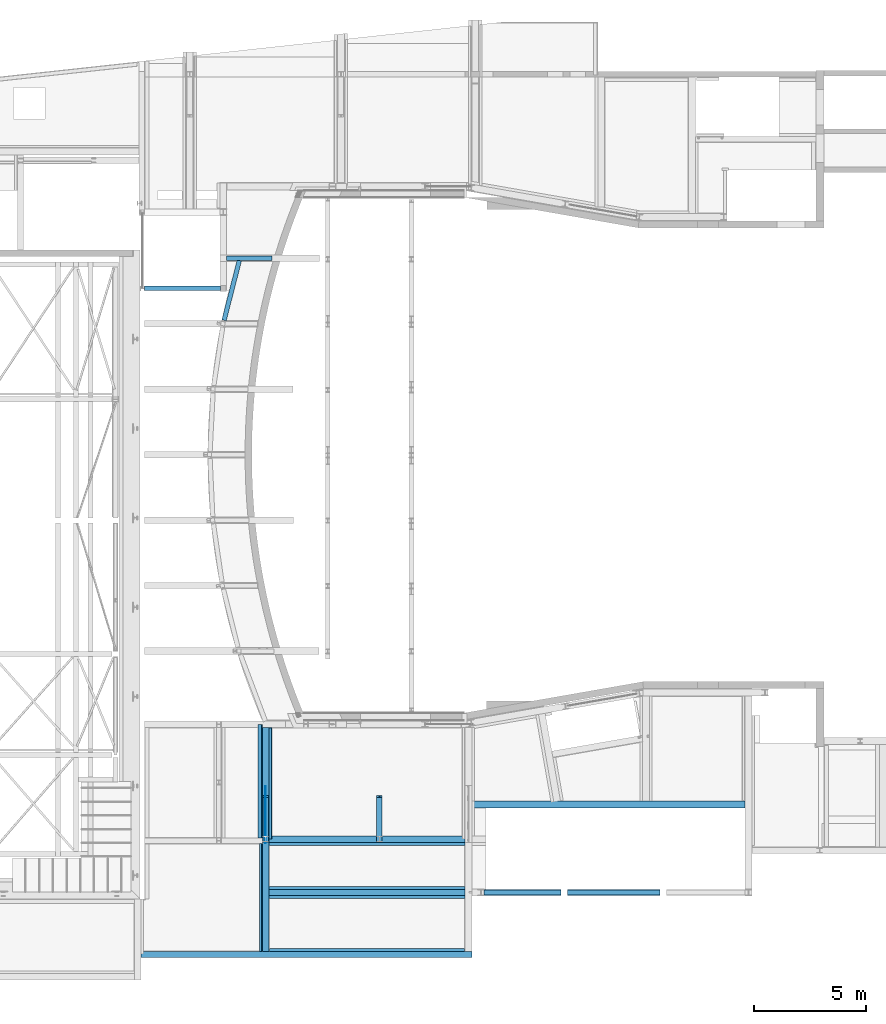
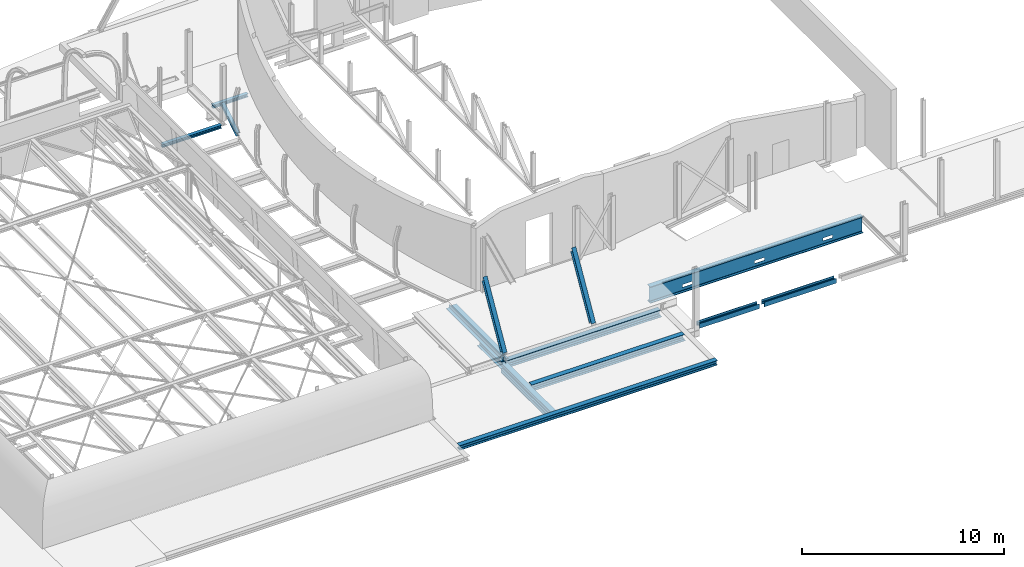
# One storey, part 18 of 38: 17 beams.
"""IFC2X3 building model written with IfcOpenShell, lengths in millimetres."""

from ifc_helpers import new_model, entity, si_unit, converted_unit, derived_unit, direction, frame, frame_2d, origin, origin_2d_with_axis, place, context, subcontext, project, spatial, polyline, circle_curve, parameter, trimmed, segment, composite_curve, rectangle, i_section, outline, extrude, boolean, clip, halfspace, source, transform, mapped, material, material_list, type_object, type_shapes, element, save


model = new_model("IFC2X3")

# Units and contexts
model_context = context("Model", 3, precision=0.01, world=origin(), true_north=direction((6.12303176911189e-17, 1.0)))
body_context = subcontext(model_context, "Body", "Model", "MODEL_VIEW")
ifc_project = project(units=[si_unit("LENGTHUNIT", "METRE", prefix="MILLI"), si_unit("AREAUNIT", "SQUARE_METRE", prefix="MILLI"), si_unit("VOLUMEUNIT", "CUBIC_METRE"), converted_unit("PLANEANGLEUNIT", "DEGREE", entity("IfcRatioMeasure", 0.0174532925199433), si_unit("PLANEANGLEUNIT", "RADIAN"), dimensions=[0, 0, 0, 0, 0, 0, 0]), si_unit("MASSUNIT", "GRAM", prefix="KILO"), derived_unit("MASSDENSITYUNIT", [(si_unit("MASSUNIT", "GRAM", prefix="KILO"), 1), (si_unit("LENGTHUNIT", "METRE"), -3)]), derived_unit("MOMENTOFINERTIAUNIT", [(si_unit("LENGTHUNIT", "METRE"), 4)]), si_unit("TIMEUNIT", "SECOND"), si_unit("FREQUENCYUNIT", "HERTZ"), si_unit("THERMODYNAMICTEMPERATUREUNIT", "DEGREE_CELSIUS"), derived_unit("THERMALTRANSMITTANCEUNIT", [(si_unit("MASSUNIT", "GRAM", prefix="KILO"), 1), (si_unit("THERMODYNAMICTEMPERATUREUNIT", "KELVIN"), -1), (si_unit("TIMEUNIT", "SECOND"), -3)]), derived_unit("VOLUMETRICFLOWRATEUNIT", [(si_unit("LENGTHUNIT", "METRE"), 3), (si_unit("TIMEUNIT", "SECOND"), -1)]), si_unit("ELECTRICCURRENTUNIT", "AMPERE"), si_unit("ELECTRICVOLTAGEUNIT", "VOLT"), si_unit("POWERUNIT", "WATT"), si_unit("FORCEUNIT", "NEWTON", prefix="KILO"), si_unit("ILLUMINANCEUNIT", "LUX"), si_unit("LUMINOUSFLUXUNIT", "LUMEN"), si_unit("LUMINOUSINTENSITYUNIT", "CANDELA"), derived_unit("USERDEFINED", [(si_unit("MASSUNIT", "GRAM", prefix="KILO"), -1), (si_unit("LENGTHUNIT", "METRE"), -2), (si_unit("TIMEUNIT", "SECOND"), 3), (si_unit("LUMINOUSFLUXUNIT", "LUMEN"), 1)]), derived_unit("LINEARVELOCITYUNIT", [(si_unit("LENGTHUNIT", "METRE"), 1), (si_unit("TIMEUNIT", "SECOND"), -1)]), si_unit("PRESSUREUNIT", "PASCAL"), derived_unit("USERDEFINED", [(si_unit("LENGTHUNIT", "METRE"), -2), (si_unit("MASSUNIT", "GRAM", prefix="KILO"), 1), (si_unit("TIMEUNIT", "SECOND"), -2)]), derived_unit("LINEARFORCEUNIT", [(si_unit("MASSUNIT", "GRAM", prefix="KILO"), 1), (si_unit("LENGTHUNIT", "METRE"), 1), (si_unit("TIMEUNIT", "SECOND"), -2), (si_unit("LENGTHUNIT", "METRE"), -1)]), derived_unit("PLANARFORCEUNIT", [(si_unit("MASSUNIT", "GRAM", prefix="KILO"), 1), (si_unit("LENGTHUNIT", "METRE"), 1), (si_unit("TIMEUNIT", "SECOND"), -2), (si_unit("LENGTHUNIT", "METRE"), -2)])], contexts=[model_context])

# Site, building, storey
site_placement = place(None, origin())
site = spatial("IfcSite", under=ifc_project, at=site_placement, Name="Theater aan de Parade", CompositionType="ELEMENT")
building_placement = place(site_placement, origin())
building = spatial("IfcBuilding", under=site, at=building_placement, Name="Theater aan de Parade", CompositionType="ELEMENT")
storey_placement = place(building_placement, frame((0.0, 0.0, 12480.0)))
storey = spatial("IfcBuildingStorey", under=building, at=storey_placement, Name="03 derde verdieping", CompositionType="ELEMENT", Elevation=12480.0)

# Beams
ifc_material_1 = material(Name="00_PBT_MAT_staal_S355")
beam_type_1 = type_object("IfcBeamType", Name="28_PBT_SF_staal_L-profiel:S355_L200x200x20", PredefinedType="NOTDEFINED")
beam_1_placement = place(storey_placement, frame((42638.1091634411, 15379.4841107, 0.0), z_axis=(0.0, 0.0, 1.0), x_axis=(0.0, 1.0, 0.0)))
element("IfcBeam", 1, at=beam_1_placement, inside=storey, type_object=beam_type_1, material=ifc_material_1, Name="28_PBT_SF_staal_L-profiel:S355_L200x200x20", ObjectType="28_PBT_SF_staal_L-profiel:S355_L200x200x20", context=body_context, shape_type="SweptSolid", body=[
    extrude(outline(composite_curve([segment(polyline([(-124.444444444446, -75.5555555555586), (75.5555555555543, -75.5555555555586)]), True, "CONTINUOUS"), segment(polyline([(75.5555555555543, -75.5555555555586), (75.5555555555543, 124.444444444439)]), True, "CONTINUOUS"), segment(polyline([(75.5555555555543, 124.444444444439), (64.5555555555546, 124.444444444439)]), True, "CONTINUOUS"), segment(trimmed(circle_curve(frame_2d((64.5555555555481, 115.444444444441), x_axis=(0.0, 1.0)), 8.99999999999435), [parameter(0.0)], [parameter(90.0000000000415)], True, "PARAMETER"), True, "CONTINUOUS"), segment(polyline([(55.5555555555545, 115.444444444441), (55.5555555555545, -37.5555555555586)]), True, "CONTINUOUS"), segment(trimmed(circle_curve(frame_2d((37.5555555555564, -37.5555555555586), x_axis=(1.0, 0.0)), 17.9999999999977), [parameter(269.999999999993)], [parameter(0.0)], True, "PARAMETER"), False, "CONTINUOUS"), segment(polyline([(37.5555555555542, -55.5555555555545), (-115.444444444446, -55.5555555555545)]), True, "CONTINUOUS"), segment(trimmed(circle_curve(frame_2d((-115.444444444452, -64.5555555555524), x_axis=(0.0, 1.0)), 8.99999999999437), [parameter(0.0)], [parameter(90.0000000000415)], True, "PARAMETER"), True, "CONTINUOUS"), segment(polyline([(-124.444444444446, -64.5555555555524), (-124.444444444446, -75.5555555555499)]), True, "CONTINUOUS")], self_intersect=False)), frame((0.0, 18.7555555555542, -89.4444444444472), z_axis=(1.0, 0.0, 0.0), x_axis=(0.0, 0.0, -1.0)), (0.0, 0.0, 1.0), 5065.51588929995),
])
beam_type_2 = type_object("IfcBeamType", Name="28_PBT_SF_staal_H-profiel (void):S355_HE200A", PredefinedType="NOTDEFINED")
beam_2_placement = place(storey_placement, frame((40838.8581275, 39850.0, 0.0), z_axis=(0.0, 0.0, 1.0), x_axis=(-1.0, 0.0, 0.0)))
element("IfcBeam", 2, at=beam_2_placement, inside=storey, type_object=beam_type_2, material=ifc_material_1, Name="28_PBT_SF_staal_H-profiel (void):S355_HE200A", ObjectType="28_PBT_SF_staal_H-profiel (void):S355_HE200A", context=body_context, shape_type="SweptSolid", body=[
    extrude(outline(composite_curve([segment(polyline([(85.0, -100.0), (95.0, -100.0)]), True, "CONTINUOUS"), segment(polyline([(95.0, -100.0), (95.0, 100.0)]), True, "CONTINUOUS"), segment(polyline([(95.0, 100.0), (85.0, 100.0)]), True, "CONTINUOUS"), segment(polyline([(85.0, 100.0), (85.0, 21.2500000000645)]), True, "CONTINUOUS"), segment(trimmed(circle_curve(frame_2d((67.0, 21.2500000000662), x_axis=(1.0, 0.0)), 17.9999999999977), [parameter(269.999999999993)], [parameter(0.0)], True, "PARAMETER"), False, "CONTINUOUS"), segment(polyline([(67.0, 3.25000000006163), (-67.0, 3.24999999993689)]), True, "CONTINUOUS"), segment(trimmed(circle_curve(frame_2d((-67.0, 21.2499999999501), x_axis=(0.0, -1.0)), 17.9999999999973), [parameter(269.999999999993)], [parameter(0.0)], True, "PARAMETER"), False, "CONTINUOUS"), segment(polyline([(-85.0, 21.2499999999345), (-85.0, 100.0)]), True, "CONTINUOUS"), segment(polyline([(-85.0, 100.0), (-95.0, 100.0)]), True, "CONTINUOUS"), segment(polyline([(-95.0, 100.0), (-95.0, -100.0)]), True, "CONTINUOUS"), segment(polyline([(-95.0, -100.0), (-85.0, -100.0)]), True, "CONTINUOUS"), segment(polyline([(-85.0, -100.0), (-85.0, -21.2500000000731)]), True, "CONTINUOUS"), segment(trimmed(circle_curve(frame_2d((-67.0, -21.2500000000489), x_axis=(-1.0, 0.0)), 17.9999999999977), [parameter(269.999999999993)], [parameter(0.0)], True, "PARAMETER"), False, "CONTINUOUS"), segment(polyline([(-67.0, -3.25000000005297), (67.0, -3.24999999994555)]), True, "CONTINUOUS"), segment(trimmed(circle_curve(frame_2d((67.0, -21.2499999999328), x_axis=(0.0, 1.0)), 17.9999999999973), [parameter(269.999999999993)], [parameter(0.0)], True, "PARAMETER"), False, "CONTINUOUS"), segment(polyline([(85.0, -21.2499999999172), (85.0, -100.0)]), True, "CONTINUOUS")], self_intersect=False)), frame((0.0, 0.0, -300.0), z_axis=(1.0, 0.0, 0.0), x_axis=(0.0, 0.0, -1.0)), (0.0, 0.0, 1.0), 3384.99999741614),
])
beam_type_3 = type_object("IfcBeamType", Name="28_PBT_SF_staal_H-profiel (void):S355_HE1000A", PredefinedType="NOTDEFINED")
beam_3_placement = place(storey_placement, frame((64194.5520755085, 16870.00257623, 0.0), z_axis=(0.0, 0.0, 1.0), x_axis=(-1.0, 0.0, 0.0)))
element("IfcBeam", 3, at=beam_3_placement, inside=storey, type_object=beam_type_3, material=ifc_material_1, Name="28_PBT_SF_staal_H-profiel (void):S355_HE1000A", ObjectType="28_PBT_SF_staal_H-profiel (void):S355_HE1000A", context=body_context, shape_type="CSG", body=[
    boolean("DIFFERENCE", boolean("DIFFERENCE", boolean("DIFFERENCE", extrude(outline(composite_curve([segment(polyline([(464.0, -150.0), (495.0, -150.0)]), True, "CONTINUOUS"), segment(polyline([(495.0, -150.0), (495.0, 150.0)]), True, "CONTINUOUS"), segment(polyline([(495.0, 150.0), (464.0, 150.0)]), True, "CONTINUOUS"), segment(polyline([(464.0, 150.0), (464.0, 38.2500000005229)]), True, "CONTINUOUS"), segment(trimmed(circle_curve(frame_2d((434.0, 38.2500000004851), x_axis=(1.0, 0.0)), 29.9999999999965), [parameter(269.999999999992)], [parameter(0.0)], True, "PARAMETER"), False, "CONTINUOUS"), segment(polyline([(434.0, 8.2500000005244), (-434.0, 8.24999999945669)]), True, "CONTINUOUS"), segment(trimmed(circle_curve(frame_2d((-434.0, 38.2499999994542), x_axis=(0.0, -1.0)), 29.9999999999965), [parameter(269.999999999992)], [parameter(0.0)], True, "PARAMETER"), False, "CONTINUOUS"), segment(polyline([(-464.0, 38.2499999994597), (-464.0, 150.0)]), True, "CONTINUOUS"), segment(polyline([(-464.0, 150.0), (-495.0, 150.0)]), True, "CONTINUOUS"), segment(polyline([(-495.0, 150.0), (-495.0, -150.0)]), True, "CONTINUOUS"), segment(polyline([(-495.0, -150.0), (-464.0, -150.0)]), True, "CONTINUOUS"), segment(polyline([(-464.0, -150.0), (-464.0, -38.2500000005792)]), True, "CONTINUOUS"), segment(trimmed(circle_curve(frame_2d((-434.0, -38.2500000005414), x_axis=(-1.0, 0.0)), 29.9999999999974), [parameter(269.999999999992)], [parameter(0.0)], True, "PARAMETER"), False, "CONTINUOUS"), segment(polyline([(-434.0, -8.25000000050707), (434.0, -8.249999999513)]), True, "CONTINUOUS"), segment(trimmed(circle_curve(frame_2d((434.0, -38.2499999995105), x_axis=(0.0, 1.0)), 29.9999999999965), [parameter(269.999999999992)], [parameter(0.0)], True, "PARAMETER"), False, "CONTINUOUS"), segment(polyline([(464.0, -38.2499999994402), (464.0, -150.0)]), True, "CONTINUOUS")], self_intersect=False)), frame((0.0, 0.0, -435.0), z_axis=(1.0, 0.0, 0.0), x_axis=(0.0, 0.0, -1.0)), (0.0, 0.0, 1.0), 12169.2469158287), extrude(rectangle(XDim=170.0, YDim=570.0, at=frame_2d((4.32009983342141e-12, 0.0), x_axis=(0.0, 1.0))), frame((9962.26768215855, 8.25000000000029, -630.0), z_axis=(0.0, -1.0, 0.0), x_axis=(-1.0, 0.0, 0.0)), (0.0, 0.0, 1.0), 16.5000000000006)), extrude(rectangle(XDim=170.0, YDim=570.0, at=frame_2d((4.32009983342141e-12, 0.0), x_axis=(0.0, 1.0))), frame((5847.85147524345, 8.25000000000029, -630.0), z_axis=(0.0, -1.0, 0.0), x_axis=(-1.0, 0.0, 0.0)), (0.0, 0.0, 1.0), 16.5000000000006)), extrude(rectangle(XDim=170.0, YDim=570.0, at=frame_2d((4.32009983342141e-12, 0.0), x_axis=(0.0, 1.0))), frame((1955.78862889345, 8.25000000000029, -630.0), z_axis=(0.0, -1.0, 0.0), x_axis=(-1.0, 0.0, 0.0)), (0.0, 0.0, 1.0), 16.4999999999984)),
])
ifc_material_2 = material(Name="00_PBT_MAT_Lucht")
ifc_material_list_1 = material_list([ifc_material_2, ifc_material_1])
beam_type_4 = type_object("IfcBeamType", Name="28_PBT_SF_staal_H-profiel_met_ondergelaste_strip (void):S355_HE280B + ondergelaste strip d=15", PredefinedType="BEAM", material=ifc_material_list_1)
shared_shape_1 = source(origin(), body_context, "Body", "SweptSolid", [
    extrude(outline(composite_curve([segment(polyline([(122.0, -140.0), (140.0, -140.0)]), True, "CONTINUOUS"), segment(polyline([(140.0, -140.0), (140.0, 140.0)]), True, "CONTINUOUS"), segment(polyline([(140.0, 140.0), (122.0, 140.0)]), True, "CONTINUOUS"), segment(polyline([(122.0, 140.0), (122.0, 29.2500000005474)]), True, "CONTINUOUS"), segment(trimmed(circle_curve(frame_2d((98.0, 29.2500000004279), x_axis=(1.0, 0.0)), 24.0000000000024), [parameter(270.00000000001)], [parameter(0.0)], True, "PARAMETER"), False, "CONTINUOUS"), segment(polyline([(98.0, 5.25000000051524), (-98.0, 5.24999999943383)]), True, "CONTINUOUS"), segment(trimmed(circle_curve(frame_2d((-98.0, 29.2499999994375), x_axis=(0.0, -1.0)), 24.0000000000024), [parameter(270.00000000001)], [parameter(0.0)], True, "PARAMETER"), False, "CONTINUOUS"), segment(polyline([(-122.0, 29.2499999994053), (-122.0, 140.0)]), True, "CONTINUOUS"), segment(polyline([(-122.0, 140.0), (-140.0, 140.0)]), True, "CONTINUOUS"), segment(polyline([(-140.0, 140.0), (-140.0, -140.0)]), True, "CONTINUOUS"), segment(polyline([(-140.0, -140.0), (-122.0, -140.0)]), True, "CONTINUOUS"), segment(polyline([(-122.0, -140.0), (-122.0, -29.2500000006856)]), True, "CONTINUOUS"), segment(trimmed(circle_curve(frame_2d((-98.0, -29.2500000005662), x_axis=(-1.0, 0.0)), 24.000000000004), [parameter(270.000000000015)], [parameter(0.0)], True, "PARAMETER"), False, "CONTINUOUS"), segment(polyline([(-98.0, -5.2500000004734), (98.0, -5.24999999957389)]), True, "CONTINUOUS"), segment(trimmed(circle_curve(frame_2d((98.0, -29.2499999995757), x_axis=(0.0, 1.0)), 24.0000000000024), [parameter(270.00000000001)], [parameter(0.0)], True, "PARAMETER"), False, "CONTINUOUS"), segment(polyline([(122.0, -29.2499999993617), (122.0, -140.0)]), True, "CONTINUOUS")], self_intersect=False)), frame((37288.6081300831, 10197.0, 12015.0), z_axis=(1.0, 0.0, 0.0), x_axis=(0.0, 0.0, -1.0)), (0.0, 0.0, 1.0), 14736.6970295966),
    extrude(rectangle(XDim=14.9999999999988, YDim=400.0, at=frame_2d((0.0, -5.41433564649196e-11), x_axis=(1.0, 0.0))), frame((43013.6081300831, 10262.0, 11867.5), z_axis=(1.0, 0.0, 0.0), x_axis=(0.0, 0.0, -1.0)), (0.0, 0.0, 1.0), 8686.69702959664),
])
type_shapes(beam_type_4, [shared_shape_1])
beam_4_placement = place(storey_placement, frame((0.0, 0.0, -12480.0)))
element("IfcBeam", 4, at=beam_4_placement, inside=storey, type_object=beam_type_4, material=ifc_material_1, Name="28_PBT_SF_staal_H-profiel_met_ondergelaste_strip (void):S355_HE280B + ondergelaste strip d=15", ObjectType="28_PBT_SF_staal_H-profiel_met_ondergelaste_strip (void):S355_HE280B + ondergelaste strip d=15", context=body_context, shape_type="MappedRepresentation", body=[
    mapped(shared_shape_1, transform((0.0, 0.0, 0.0), scale=1.0)),
])
ifc_material_3 = material(Name="00_PBT_MAT_staal_S235")
beam_type_5 = type_object("IfcBeamType", Name="28_PBT_SF_staal_koker:S235_K80x120x6.3", PredefinedType="NOTDEFINED")
beam_5_placement = place(storey_placement, frame((42999.9091634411, 20275.0, 0.0), z_axis=(0.0, 0.0, 1.0), x_axis=(0.0, -1.0, 0.0)))
element("IfcBeam", 5, at=beam_5_placement, inside=storey, type_object=beam_type_5, material=ifc_material_3, Name="28_PBT_SF_staal_koker:S235_K80x120x6.3", ObjectType="28_PBT_SF_staal_koker:S235_K80x120x6.3", context=body_context, shape_type="SweptSolid", body=[
    extrude(outline(composite_curve([segment(polyline([(-30.5499999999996, -60.0), (30.5499999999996, -60.0)]), True, "CONTINUOUS"), segment(trimmed(circle_curve(frame_2d((30.5499999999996, -50.5500000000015), x_axis=(0.0, 1.0)), 9.45), [parameter(180.0)], [parameter(270.0)], True, "PARAMETER"), True, "CONTINUOUS"), segment(polyline([(40.0, -50.5500000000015), (40.0, 50.5500000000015)]), True, "CONTINUOUS"), segment(trimmed(circle_curve(frame_2d((30.5499999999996, 50.5500000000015), x_axis=(0.0, 1.0)), 9.45), [parameter(270.0)], [parameter(360.0)], True, "PARAMETER"), True, "CONTINUOUS"), segment(polyline([(30.5499999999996, 60.0), (-30.5499999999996, 60.0)]), True, "CONTINUOUS"), segment(trimmed(circle_curve(frame_2d((-30.5499999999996, 50.5500000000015), x_axis=(0.0, 1.0)), 9.45), [parameter(0.0)], [parameter(90.0000000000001)], True, "PARAMETER"), True, "CONTINUOUS"), segment(polyline([(-40.0, 50.5500000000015), (-40.0, -50.5500000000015)]), True, "CONTINUOUS"), segment(trimmed(circle_curve(frame_2d((-30.5499999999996, -50.5500000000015), x_axis=(0.0, 1.0)), 9.45), [parameter(90.0)], [parameter(180.0)], True, "PARAMETER"), True, "CONTINUOUS")], self_intersect=False), holes=[composite_curve([segment(polyline([(33.6999999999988, 47.3999999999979), (33.6999999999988, -47.3999999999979)]), True, "CONTINUOUS"), segment(trimmed(circle_curve(frame_2d((27.4000000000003, -47.3999999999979), x_axis=(0.0, 1.0)), 6.3), [parameter(180.0)], [parameter(270.0)], True, "PARAMETER"), False, "CONTINUOUS"), segment(polyline([(27.4000000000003, -53.6999999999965), (-27.4000000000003, -53.6999999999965)]), True, "CONTINUOUS"), segment(trimmed(circle_curve(frame_2d((-27.4000000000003, -47.3999999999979), x_axis=(0.0, 1.0)), 6.3), [parameter(90.0)], [parameter(180.0)], True, "PARAMETER"), False, "CONTINUOUS"), segment(polyline([(-33.700000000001, -47.3999999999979), (-33.700000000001, 47.3999999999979)]), True, "CONTINUOUS"), segment(trimmed(circle_curve(frame_2d((-27.4000000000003, 47.3999999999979), x_axis=(0.0, 1.0)), 6.3), [parameter(4.07110999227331e-13)], [parameter(90.0000000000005)], True, "PARAMETER"), False, "CONTINUOUS"), segment(polyline([(-27.4000000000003, 53.6999999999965), (27.4000000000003, 53.6999999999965)]), True, "CONTINUOUS"), segment(trimmed(circle_curve(frame_2d((27.4000000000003, 47.3999999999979), x_axis=(0.0, 1.0)), 6.3), [parameter(270.0)], [parameter(360.0)], True, "PARAMETER"), False, "CONTINUOUS")], self_intersect=False)]), frame((0.0, 60.0, -305.0), z_axis=(1.0, 0.0, 0.0), x_axis=(0.0, 0.0, 1.0)), (0.0, 0.0, 1.0), 4945.51588929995),
])
ifc_material_list_2 = material_list([ifc_material_2, ifc_material_1])
beam_type_6 = type_object("IfcBeamType", Name="28_PBT_SF_staal_H-profiel_met_ondergelaste_strip (void):S355_HE400B + ondergelaste strip d=25", PredefinedType="BEAM", material=ifc_material_list_2)
shared_shape_2 = source(origin(), body_context, "Body", "SweptSolid", [
    extrude(i_section(OverallWidth=300.000000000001, OverallDepth=400.000000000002, WebThickness=13.4999999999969, FlangeThickness=24.000000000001, FilletRadius=27.0000000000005, at=frame_2d((-8.65441052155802e-12, 2.17426077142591e-12), x_axis=(1.0, 0.0))), frame((42844.909163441, 10337.0, 11875.0), z_axis=(0.0, 1.0, 0.0), x_axis=(-1.0, 0.0, 0.0)), (0.0, 0.0, 1.0), 7357.22740149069),
    extrude(rectangle(XDim=25.0000000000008, YDim=420.0, at=frame_2d((4.33431068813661e-12, 0.0), x_axis=(0.0, 1.0))), frame((42779.9091634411, 10338.0, 11662.5), z_axis=(0.0, 1.0, 0.0), x_axis=(-1.0, 0.0, 0.0)), (0.0, 0.0, 1.0), 4771.22740149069),
])
type_shapes(beam_type_6, [shared_shape_2])
beam_6_placement = place(storey_placement, frame((0.0, 0.0, -12480.0)))
element("IfcBeam", 6, at=beam_6_placement, inside=storey, type_object=beam_type_6, material=ifc_material_1, Name="28_PBT_SF_staal_H-profiel_met_ondergelaste_strip (void):S355_HE400B + ondergelaste strip d=25", ObjectType="28_PBT_SF_staal_H-profiel_met_ondergelaste_strip (void):S355_HE400B + ondergelaste strip d=25", context=body_context, shape_type="MappedRepresentation", body=[
    mapped(shared_shape_2, transform((0.0, 0.0, 0.0), scale=1.0)),
])
beam_type_7 = type_object("IfcBeamType", Name="28_PBT_SF_staal_koker:S235_K100x200x8", PredefinedType="NOTDEFINED")
beam_7_placement = place(storey_placement, frame((42574.909163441, 10337.0, 0.0), z_axis=(0.0, 0.0, 1.0), x_axis=(0.0, 1.0, 0.0)))
element("IfcBeam", 7, at=beam_7_placement, inside=storey, type_object=beam_type_7, material=ifc_material_3, Name="28_PBT_SF_staal_koker:S235_K100x200x8", ObjectType="28_PBT_SF_staal_koker:S235_K100x200x8", context=body_context, shape_type="SweptSolid", body=[
    extrude(outline(composite_curve([segment(trimmed(circle_curve(frame_2d((-38.0, -88.0), x_axis=(1.0, 0.0)), 12.0), [parameter(180.0)], [parameter(270.0)], True, "PARAMETER"), True, "CONTINUOUS"), segment(polyline([(-38.0, -100.0), (38.0, -100.0)]), True, "CONTINUOUS"), segment(trimmed(circle_curve(frame_2d((38.0, -88.0), x_axis=(1.0, 0.0)), 12.0), [parameter(270.0)], [parameter(0.0)], True, "PARAMETER"), True, "CONTINUOUS"), segment(polyline([(50.0, -88.0), (50.0, 88.0)]), True, "CONTINUOUS"), segment(trimmed(circle_curve(frame_2d((38.0, 88.0), x_axis=(1.0, 0.0)), 12.0), [parameter(3.05333249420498e-13)], [parameter(90.0000000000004)], True, "PARAMETER"), True, "CONTINUOUS"), segment(polyline([(38.0, 100.0), (-38.0, 100.0)]), True, "CONTINUOUS"), segment(trimmed(circle_curve(frame_2d((-38.0, 88.0), x_axis=(1.0, 0.0)), 12.0), [parameter(90.0000000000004)], [parameter(180.0)], True, "PARAMETER"), True, "CONTINUOUS"), segment(polyline([(-50.0, 88.0), (-50.0, -88.0)]), True, "CONTINUOUS")], self_intersect=False), holes=[composite_curve([segment(trimmed(circle_curve(frame_2d((34.0, 84.0), x_axis=(1.0, 0.0)), 8.0), [parameter(360.0)], [parameter(90.0000000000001)], True, "PARAMETER"), False, "CONTINUOUS"), segment(polyline([(42.0, 84.0), (42.0, -84.0)]), True, "CONTINUOUS"), segment(trimmed(circle_curve(frame_2d((34.0, -84.0), x_axis=(1.0, 0.0)), 8.0), [parameter(270.0)], [parameter(360.0)], True, "PARAMETER"), False, "CONTINUOUS"), segment(polyline([(34.0, -92.0), (-34.0, -92.0)]), True, "CONTINUOUS"), segment(trimmed(circle_curve(frame_2d((-34.0, -84.0), x_axis=(1.0, 0.0)), 8.0), [parameter(180.0)], [parameter(270.0)], True, "PARAMETER"), False, "CONTINUOUS"), segment(polyline([(-42.0, -84.0), (-42.0, 84.0)]), True, "CONTINUOUS"), segment(trimmed(circle_curve(frame_2d((-34.0, 84.0), x_axis=(1.0, 0.0)), 8.0), [parameter(89.9999999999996)], [parameter(180.0)], True, "PARAMETER"), False, "CONTINUOUS"), segment(polyline([(-34.0, 92.0), (34.0, 92.0)]), True, "CONTINUOUS")], self_intersect=False)]), frame((0.0, -50.0, -705.0), z_axis=(1.0, 0.0, 0.0), x_axis=(0.0, 1.0, 0.0)), (0.0, 0.0, 1.0), 4802.48411070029),
])
ifc_material_list_3 = material_list([ifc_material_1, ifc_material_2])
beam_type_8 = type_object("IfcBeamType", Name="28_PBT_SF_staal_H-profiel_met_ondergelaste_strip (void):S355_HE400B + ondergelaste strip d=25", PredefinedType="BEAM", material=ifc_material_list_3)
shared_shape_3 = source(origin(), body_context, "Body", "SweptSolid", [
    extrude(i_section(OverallWidth=300.000000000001, OverallDepth=400.0, WebThickness=13.4999999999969, FlangeThickness=24.000000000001, FilletRadius=27.0000000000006, at=frame_2d((-8.65441052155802e-12, -4.33431068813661e-12), x_axis=(1.0, 0.0))), frame((42844.9091634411, 20295.0, 12335.0), z_axis=(0.0, -1.0, 0.0), x_axis=(-1.0, 0.0, 0.0)), (0.0, 0.0, 1.0), 4965.51588929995),
    extrude(rectangle(XDim=24.9999999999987, YDim=420.0, at=frame_2d((4.33431068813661e-12, 0.0), x_axis=(0.0, 1.0))), frame((42909.9091634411, 20294.0, 12122.5), z_axis=(0.0, -1.0, 0.0), x_axis=(-1.0, 0.0, 0.0)), (0.0, 0.0, 1.0), 4963.51588929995),
])
type_shapes(beam_type_8, [shared_shape_3])
beam_8_placement = place(storey_placement, frame((0.0, 0.0, -12480.0)))
element("IfcBeam", 8, at=beam_8_placement, inside=storey, type_object=beam_type_8, material=ifc_material_1, Name="28_PBT_SF_staal_H-profiel_met_ondergelaste_strip (void):S355_HE400B + ondergelaste strip d=25", ObjectType="28_PBT_SF_staal_H-profiel_met_ondergelaste_strip (void):S355_HE400B + ondergelaste strip d=25", context=body_context, shape_type="MappedRepresentation", body=[
    mapped(shared_shape_3, transform((0.0, 0.0, 0.0), scale=1.0)),
])
beam_type_9 = type_object("IfcBeamType", Name="28_PBT_SF_staal_H-profiel:S355_HE200A", PredefinedType="NOTDEFINED")
beam_9_placement = place(storey_placement, frame((41674.9355575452, 41094.8133673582, 0.0), z_axis=(0.0, 0.0, 1.0), x_axis=(-0.247937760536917, -0.968775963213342, 0.0)))
element("IfcBeam", 9, at=beam_9_placement, inside=storey, type_object=beam_type_9, material=ifc_material_1, Name="28_PBT_SF_staal_H-profiel:S355_HE200A", ObjectType="28_PBT_SF_staal_H-profiel:S355_HE200A", context=body_context, shape_type="SweptSolid", body=[
    extrude(i_section(OverallWidth=200.000000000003, OverallDepth=190.0, WebThickness=6.49999999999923, FlangeThickness=9.99999999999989, FilletRadius=17.9999999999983, at=frame_2d((-2.16715534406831e-12, 8.39150970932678e-12), x_axis=(0.0, 1.0))), frame((0.0, 0.0, -25.0), z_axis=(1.0, 0.0, 0.0), x_axis=(0.0, 0.0, -1.0)), (0.0, 0.0, 1.0), 2746.77696000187),
])
beam_10_placement = place(storey_placement, frame((41113.8581275, 41194.8133673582, 0.0)))
element("IfcBeam", 10, at=beam_10_placement, inside=storey, type_object=beam_type_9, material=ifc_material_1, Name="28_PBT_SF_staal_H-profiel:S355_HE200A", ObjectType="28_PBT_SF_staal_H-profiel:S355_HE200A", context=body_context, shape_type="SweptSolid", body=[
    extrude(i_section(OverallWidth=199.999999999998, OverallDepth=190.0, WebThickness=6.49999999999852, FlangeThickness=9.99999999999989, FilletRadius=17.9999999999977, at=frame_2d((-2.16715534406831e-12, -4.33431068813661e-12), x_axis=(0.0, 1.0))), frame((0.0, 0.0, -25.0), z_axis=(1.0, 0.0, 0.0), x_axis=(0.0, 0.0, -1.0)), (0.0, 0.0, 1.0), 2026.02862934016),
])
beam_type_10 = type_object("IfcBeamType", Name="28_PBT_SF_staal_H-profiel:S355_HE240B", PredefinedType="NOTDEFINED")
beam_11_placement = place(storey_placement, frame((47911.2389750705, 17220.9610249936, 3710.22370852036), z_axis=(1.0, 0.0, 0.0), x_axis=(0.0, -0.499999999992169, -0.86602540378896)))
element("IfcBeam", 11, at=beam_11_placement, inside=storey, type_object=beam_type_10, material=ifc_material_1, Name="28_PBT_SF_staal_H-profiel:S355_HE240B", ObjectType="28_PBT_SF_staal_H-profiel:S355_HE240B", context=body_context, shape_type="Clipping", body=[
    clip(clip(extrude(i_section(OverallWidth=239.999999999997, OverallDepth=239.999999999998, WebThickness=9.99999999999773, FlangeThickness=17.0000000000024, FilletRadius=21.000000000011, at=frame_2d((8.66151594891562e-12, -2.41584530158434e-12), x_axis=(1.0, 0.0))), frame((81.0873540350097, 120.0, 0.0), z_axis=(1.0, 0.0, 0.0), x_axis=(0.0, 0.0, -1.0)), (0.0, 0.0, 1.0), 3941.86647461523), halfspace(frame((4022.95382865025, 0.0, 524.066554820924), z_axis=(0.965925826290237, 0.258819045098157, 0.0), x_axis=(0.258819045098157, -0.965925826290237, 0.0)), False)), halfspace(frame((81.0873540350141, 0.0, 1241.12999711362), z_axis=(-0.752335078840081, 0.658780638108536, 0.0), x_axis=(-0.658780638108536, -0.752335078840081, 0.0)), False)),
])
beam_12_placement = place(storey_placement, frame((42844.9091634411, 17220.9610249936, 3710.22370852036), z_axis=(1.0, 0.0, 0.0), x_axis=(0.0, -0.499999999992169, -0.86602540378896)))
element("IfcBeam", 12, at=beam_12_placement, inside=storey, type_object=beam_type_10, material=ifc_material_1, Name="28_PBT_SF_staal_H-profiel:S355_HE240B", ObjectType="28_PBT_SF_staal_H-profiel:S355_HE240B", context=body_context, shape_type="Clipping", body=[
    clip(clip(extrude(i_section(OverallWidth=239.999999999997, OverallDepth=239.999999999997, WebThickness=9.99999999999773, FlangeThickness=17.000000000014, FilletRadius=21.0000000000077, at=frame_2d((8.66151594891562e-12, -1.47792889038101e-12), x_axis=(1.0, 0.0))), frame((81.0873540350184, 120.0, 0.0), z_axis=(1.0, 0.0, 0.0), x_axis=(0.0, 0.0, -1.0)), (0.0, 0.0, 1.0), 3941.86647461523), halfspace(frame((4022.95382865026, 0.0, 5590.39636645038), z_axis=(0.965925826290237, 0.258819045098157, 0.0), x_axis=(0.258819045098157, -0.965925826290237, 0.0)), False)), halfspace(frame((81.0873540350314, 0.0, 6307.45980874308), z_axis=(-0.752335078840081, 0.658780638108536, 0.0), x_axis=(-0.658780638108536, -0.752335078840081, 0.0)), False)),
])
beam_type_11 = type_object("IfcBeamType", Name="28_PBT_SF_staal_H-profiel (void):S355_HE280B_Z", PredefinedType="NOTDEFINED")
beam_13_placement = place(storey_placement, frame((52579.5687867, 13095.0, 0.0)))
element("IfcBeam", 13, at=beam_13_placement, inside=storey, type_object=beam_type_11, material=ifc_material_1, Name="28_PBT_SF_staal_H-profiel (void):S355_HE280B_Z", ObjectType="28_PBT_SF_staal_H-profiel (void):S355_HE280B_Z", context=body_context, shape_type="SweptSolid", body=[
    extrude(i_section(OverallWidth=279.999999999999, OverallDepth=280.000000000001, WebThickness=10.5000000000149, FlangeThickness=18.0000000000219, FilletRadius=24.0000000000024, at=frame_2d((0.0, 4.33431068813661e-12), x_axis=(1.0, 0.0))), frame((0.0, -140.0, -120.0), z_axis=(1.0, 0.0, 0.0), x_axis=(0.0, 0.0, -1.0)), (0.0, 0.0, 1.0), 3420.0),
])
beam_14_placement = place(storey_placement, frame((56279.5687867, 13095.0, 0.0)))
element("IfcBeam", 14, at=beam_14_placement, inside=storey, type_object=beam_type_11, material=ifc_material_1, Name="28_PBT_SF_staal_H-profiel (void):S355_HE280B_Z", ObjectType="28_PBT_SF_staal_H-profiel (void):S355_HE280B_Z", context=body_context, shape_type="SweptSolid", body=[
    extrude(i_section(OverallWidth=279.999999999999, OverallDepth=280.000000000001, WebThickness=10.500000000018, FlangeThickness=18.0000000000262, FilletRadius=24.0000000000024, at=frame_2d((0.0, 8.65441052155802e-12), x_axis=(1.0, 0.0))), frame((0.0, -140.0, -120.0), z_axis=(1.0, 0.0, 0.0), x_axis=(0.0, 0.0, -1.0)), (0.0, 0.0, 1.0), 4131.26362709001),
])
ifc_material_list_4 = material_list([ifc_material_2, ifc_material_1])
beam_type_12 = type_object("IfcBeamType", Name="28_PBT_SF_staal_H-profiel_met_onderplaat (void):S355_HE280B + onderplaat d=15", PredefinedType="BEAM", material=ifc_material_list_4)
shared_shape_4 = source(origin(), body_context, "Body", "SweptSolid", [
    extrude(i_section(OverallWidth=280.000000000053, OverallDepth=280.000000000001, WebThickness=10.4999999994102, FlangeThickness=17.9999999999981, FilletRadius=24.0000000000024, at=frame_2d((0.0, 0.0), x_axis=(0.0, 1.0))), frame((42994.9091634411, 12955.0, 12015.0), z_axis=(1.0, 0.0, 0.0), x_axis=(0.0, 0.0, -1.0)), (0.0, 0.0, 1.0), 8726.39599623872),
    extrude(rectangle(XDim=15.0000000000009, YDim=530.000000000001, at=frame_2d((1.08268949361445e-12, 5.41433564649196e-11), x_axis=(1.0, 0.0))), frame((42994.909163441, 12955.0, 11867.5), z_axis=(1.0, 0.0, 0.0), x_axis=(0.0, 0.0, -1.0)), (0.0, 0.0, 1.0), 8726.39599623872),
])
type_shapes(beam_type_12, [shared_shape_4])
beam_15_placement = place(storey_placement, frame((0.0, 0.0, -12480.0)))
element("IfcBeam", 15, at=beam_15_placement, inside=storey, type_object=beam_type_12, material=ifc_material_1, Name="28_PBT_SF_staal_H-profiel_met_onderplaat (void):S355_HE280B + onderplaat d=15", ObjectType="28_PBT_SF_staal_H-profiel_met_onderplaat (void):S355_HE280B + onderplaat d=15", context=body_context, shape_type="MappedRepresentation", body=[
    mapped(shared_shape_4, transform((0.0, 0.0, 0.0), scale=1.0)),
])
ifc_material_4 = material(Name="00_PBT_MAT_staal")
beam_type_13 = type_object("IfcBeamType", Name="28_PBT_SF_staal_strip:strip 15x95", PredefinedType="NOTDEFINED")
beam_16_placement = place(storey_placement, frame((42844.9091634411, 15139.4841106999, 0.0), z_axis=(0.0, 0.0, 1.0), x_axis=(0.0, 1.0, 0.0)))
element("IfcBeam", 16, at=beam_16_placement, inside=storey, type_object=beam_type_13, material=ifc_material_4, Name="28_PBT_SF_staal_strip:strip 15x95", ObjectType="28_PBT_SF_staal_strip:strip 15x95", context=body_context, shape_type="SweptSolid", body=[
    extrude(rectangle(XDim=95.0000000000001, YDim=14.9999999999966, at=origin_2d_with_axis()), frame((0.0, 0.0, -357.500000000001), z_axis=(1.0, 0.0, 0.0), x_axis=(0.0, 0.0, -1.0)), (0.0, 0.0, 1.0), 2554.74329079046),
])
ifc_material_list_5 = material_list([ifc_material_2, ifc_material_1])
beam_type_14 = type_object("IfcBeamType", Name="28_PBT_SF_staal_H-profiel_met_ondergelaste_strip (void):S355_HE320B + ondergelaste strip d=15", PredefinedType="BEAM", material=ifc_material_list_5)
shared_shape_5 = source(origin(), body_context, "Body", "SweptSolid", [
    extrude(i_section(OverallWidth=300.000000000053, OverallDepth=320.000000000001, WebThickness=11.4999999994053, FlangeThickness=20.4999999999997, FilletRadius=27.0000000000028, at=frame_2d((2.1600499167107e-12, -4.33431068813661e-12), x_axis=(0.0, 1.0))), frame((42994.9091634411, 15329.4841107, 12035.0), z_axis=(1.0, 0.0, 0.0), x_axis=(0.0, 0.0, -1.0)), (0.0, 0.0, 1.0), 8730.39599623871),
    extrude(rectangle(XDim=14.9999999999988, YDim=420.0, at=frame_2d((2.16582307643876e-12, 5.41433564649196e-11), x_axis=(1.0, 0.0))), frame((42995.909163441, 15264.4841107, 11867.5), z_axis=(1.0, 0.0, 0.0), x_axis=(0.0, 0.0, -1.0)), (0.0, 0.0, 1.0), 8728.39599623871),
])
type_shapes(beam_type_14, [shared_shape_5])
beam_17_placement = place(storey_placement, frame((0.0, 0.0, -12480.0)))
element("IfcBeam", 17, at=beam_17_placement, inside=storey, type_object=beam_type_14, material=ifc_material_1, Name="28_PBT_SF_staal_H-profiel_met_ondergelaste_strip (void):S355_HE320B + ondergelaste strip d=15", ObjectType="28_PBT_SF_staal_H-profiel_met_ondergelaste_strip (void):S355_HE320B + ondergelaste strip d=15", context=body_context, shape_type="MappedRepresentation", body=[
    mapped(shared_shape_5, transform((0.0, 0.0, 0.0), scale=1.0)),
])

save(model, "model.ifc")
